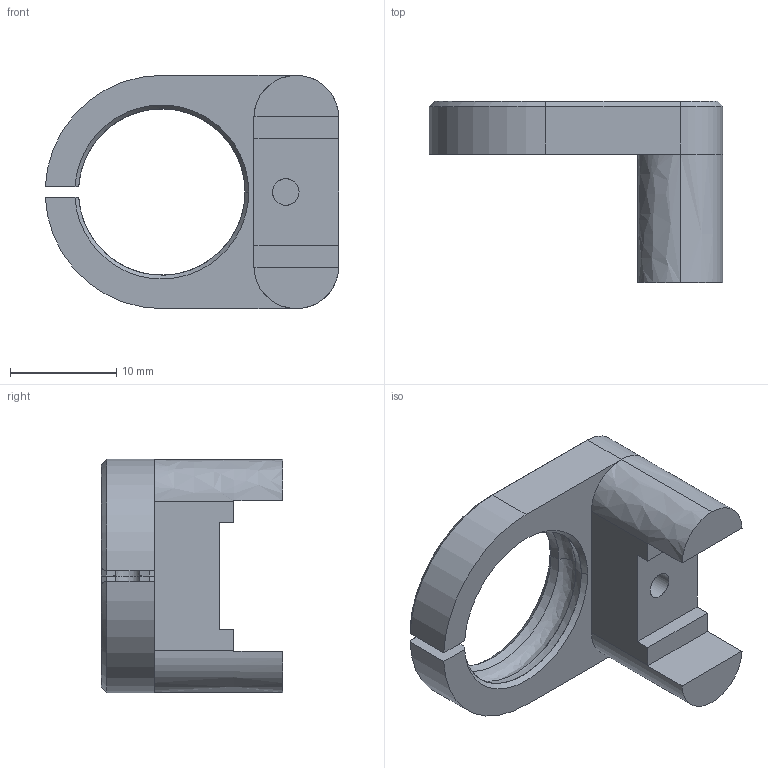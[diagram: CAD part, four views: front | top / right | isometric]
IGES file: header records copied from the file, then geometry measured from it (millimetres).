
Global section: file name: Filename.iges; native system: Open CASCADE 6.8; preprocessor: Open CASCADE IGES processor 6.8; date: 20151201.142157; units: millimetre
Bounding box: 27.69 x 17.1 x 22 mm (x, y, z)
Surface area: 2057 mm2 (no closed solid volume)
Topology: 0 solids, 0 shells, 49 faces, 248 edges, 246 vertices
Faces by surface type: plane 26, revolution 19, bspline 4
